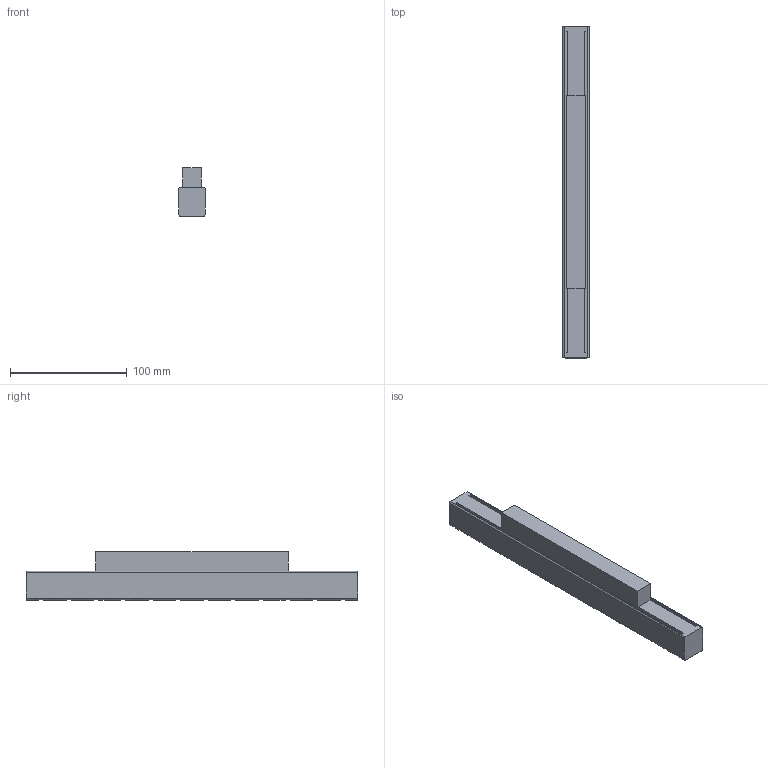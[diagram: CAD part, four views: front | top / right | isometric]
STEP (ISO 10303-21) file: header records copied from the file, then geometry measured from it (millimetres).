
FILE_DESCRIPTION(/* description */ (''),/* implementation_level */ '2;1');
FILE_NAME(/* name */ 'B430__.030',/* time_stamp */ '2024-08-30T11:22:21+02:00',/* author */ (''),/* organization */ (''),/* preprocessor_version */ 'ST-DEVELOPER v16.5',/* originating_system */ '',/* authorisation */ '');
FILE_SCHEMA (('AUTOMOTIVE_DESIGN'));
Length unit declared in the file: millimetre
Products named in the file (3): Document; B430__.030; B430__.__ - Volume_B430__.030
Assembly tree (2 placements, depth 3):
  Document
    B430__.030
      B430__.__ - Volume_B430__.030
Bounding box: 22.5 x 284.5 x 41.9 mm (x, y, z)
Volume: 181642.5 mm3; surface area: 46763.4 mm2
Topology: 1 solids, 1 shells, 75 faces, 212 edges, 140 vertices
Faces by surface type: plane 47, bspline 28
Entity records: 3078 total; most frequent: CARTESIAN_POINT 1729, ORIENTED_EDGE 424, EDGE_CURVE 212, VERTEX_POINT 140, B_SPLINE_CURVE_WITH_KNOTS 132, EDGE_LOOP 76, ADVANCED_FACE 75, FACE_OUTER_BOUND 75
